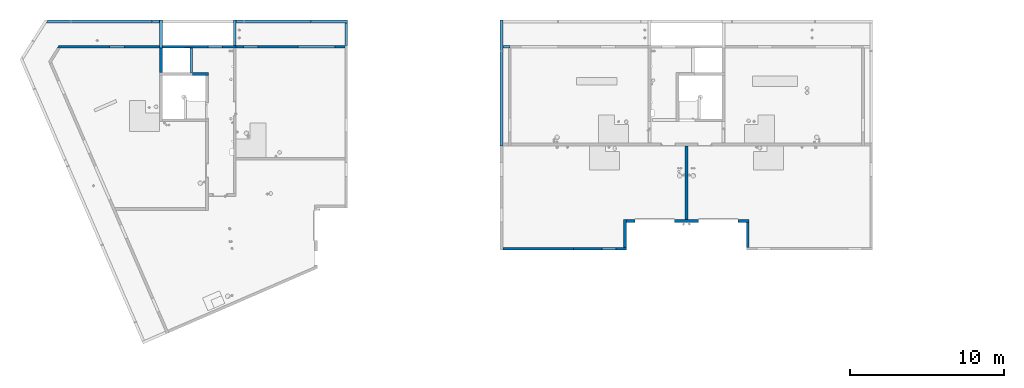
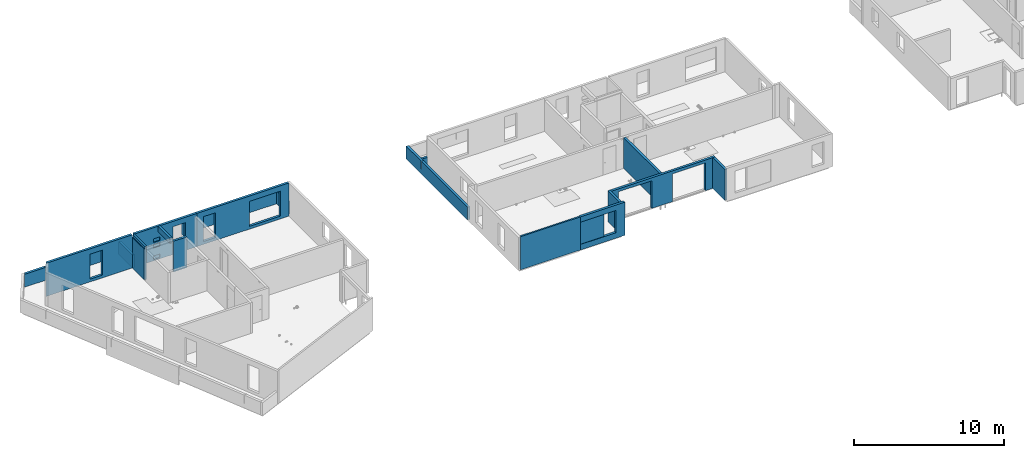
# One storey, part 7 of 28: 19 walls, 24 openings.
"""IFC2X3 building model written with IfcOpenShell, lengths in centimetres."""

from ifc_helpers import new_model, entity, si_unit, converted_unit, derived_unit, direction, frame, frame_2d, origin, place, context, subcontext, project, spatial, polyline, rectangle, outline, extrude, clip, bounded_halfspace, material, layer, layer_set, layer_usage, type_object, element, save


model = new_model("IFC2X3")

# Units and contexts
model_context = context("Model", 3, precision=0.001, world=origin(), true_north=direction((6.12303176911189e-17, 1.0)))
body_context = subcontext(model_context, "Body", "Model", "MODEL_VIEW")
ifc_project = project(units=[si_unit("LENGTHUNIT", "METRE", prefix="CENTI"), si_unit("AREAUNIT", "SQUARE_METRE"), si_unit("VOLUMEUNIT", "CUBIC_METRE"), converted_unit("PLANEANGLEUNIT", "DEGREE", entity("IfcRatioMeasure", 0.0174532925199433), si_unit("PLANEANGLEUNIT", "RADIAN"), dimensions=[0, 0, 0, 0, 0, 0, 0]), si_unit("MASSUNIT", "GRAM", prefix="KILO"), derived_unit("MASSDENSITYUNIT", [(si_unit("MASSUNIT", "GRAM", prefix="KILO"), 1), (si_unit("LENGTHUNIT", "METRE"), -3)]), si_unit("TIMEUNIT", "SECOND"), si_unit("FREQUENCYUNIT", "HERTZ"), si_unit("THERMODYNAMICTEMPERATUREUNIT", "DEGREE_CELSIUS"), derived_unit("THERMALTRANSMITTANCEUNIT", [(si_unit("MASSUNIT", "GRAM", prefix="KILO"), 1), (si_unit("THERMODYNAMICTEMPERATUREUNIT", "KELVIN"), -1), (si_unit("TIMEUNIT", "SECOND"), -3)]), derived_unit("VOLUMETRICFLOWRATEUNIT", [(si_unit("LENGTHUNIT", "METRE"), 3), (si_unit("TIMEUNIT", "SECOND"), -1)]), si_unit("ELECTRICCURRENTUNIT", "AMPERE"), si_unit("ELECTRICVOLTAGEUNIT", "VOLT"), si_unit("POWERUNIT", "WATT"), si_unit("FORCEUNIT", "NEWTON"), si_unit("ILLUMINANCEUNIT", "LUX"), si_unit("LUMINOUSFLUXUNIT", "LUMEN"), si_unit("LUMINOUSINTENSITYUNIT", "CANDELA"), derived_unit("USERDEFINED", [(si_unit("MASSUNIT", "GRAM", prefix="KILO"), -1), (si_unit("LENGTHUNIT", "METRE"), -2), (si_unit("TIMEUNIT", "SECOND"), 3), (si_unit("LUMINOUSFLUXUNIT", "LUMEN"), 1)]), derived_unit("LINEARVELOCITYUNIT", [(si_unit("LENGTHUNIT", "METRE"), 1), (si_unit("TIMEUNIT", "SECOND"), -1)]), si_unit("PRESSUREUNIT", "PASCAL"), derived_unit("USERDEFINED", [(si_unit("LENGTHUNIT", "METRE"), -2), (si_unit("MASSUNIT", "GRAM", prefix="KILO"), 1), (si_unit("TIMEUNIT", "SECOND"), -2)])], contexts=[model_context])

# Site, building, storey
site_placement = place(None, origin())
site = spatial("IfcSite", under=ifc_project, at=site_placement, Name="Default", CompositionType="ELEMENT")
building_placement = place(site_placement, origin())
building = spatial("IfcBuilding", under=site, at=building_placement, Name="CAGE 03", CompositionType="ELEMENT")
storey_placement = place(building_placement, frame((0.0, 0.0, 1420.0)))
storey = spatial("IfcBuildingStorey", under=building, at=storey_placement, Name="R+5", CompositionType="ELEMENT", Elevation=1420.0)

# Wall
ifc_material_1 = material(Name="Béton, C25/30")
ifc_layer_1 = layer(ifc_material_1, 18.0)
ifc_layer_set_1 = layer_set([ifc_layer_1], Name="Mur de base:Voile BA 18")
ifc_layer_usage_1 = layer_usage(ifc_layer_set_1, "AXIS2", "NEGATIVE", 9.0)
wall_type_1 = type_object("IfcWallType", Name="Mur de base:Voile BA 18", PredefinedType="STANDARD", material=ifc_layer_set_1)
wall_1_placement = place(storey_placement, frame((3663.36582014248, 5293.66066607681, 0.0), z_axis=(0.0, 0.0, 1.0), x_axis=(0.0, -1.0, 0.0)))
element("IfcWallStandardCase", 1, at=wall_1_placement, inside=storey, type_object=wall_type_1, material=ifc_layer_usage_1, Name="Mur de base:Voile BA 18", ObjectType="Mur de base:Voile BA 18", context=body_context, shape_type="SweptSolid", body=[
    extrude(rectangle(XDim=183.0, YDim=18.0000000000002, at=frame_2d((91.5, 5.95079541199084e-14), x_axis=(-1.0, 0.0))), origin(), (0.0, 0.0, 1.0), 105.0),
])

# Wall, openings
ifc_layer_usage_2 = layer_usage(ifc_layer_set_1, "AXIS2", "NEGATIVE", 9.0)
wall_2_placement = place(storey_placement, frame((3663.36582014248, 5119.66066607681, 0.0)))
wall_2 = element("IfcWallStandardCase", 2, at=wall_2_placement, inside=storey, type_object=wall_type_1, material=ifc_layer_usage_2, Name="Mur de base:Voile BA 18", ObjectType="Mur de base:Voile BA 18", context=body_context, shape_type="SweptSolid", body=[
    extrude(rectangle(XDim=479.999999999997, YDim=18.0000000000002, at=frame_2d((248.999999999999, -1.90070181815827e-13), x_axis=(-1.0, 0.0))), origin(), (0.0, 0.0, 1.0), 270.0),
])
opening_1_placement = place(wall_2_placement, origin())
element("IfcOpeningElement", 3, at=opening_1_placement, cuts=wall_2, Name="Mur de base:Voile BA 18", ObjectType="Opening", context=body_context, shape_type="SweptSolid", body=[
    extrude(rectangle(XDim=227.0, YDim=17.9999999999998, at=frame_2d((2.16715534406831e-13, 0.0), x_axis=(0.0, 1.0))), frame((198.0, -169.0, 113.5), z_axis=(0.0, 1.0, 0.0), x_axis=(1.0, 0.0, 0.0)), (0.0, 0.0, 1.0), 160.0),
])
opening_2_placement = place(wall_2_placement, origin())
element("IfcOpeningElement", 4, at=opening_2_placement, cuts=wall_2, Name="Mur de base:Voile BA 18", ObjectType="Recess", context=body_context, shape_type="SweptSolid", body=[
    extrude(rectangle(XDim=30.0000000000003, YDim=49.9999999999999, at=frame_2d((0.0, 1.08357767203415e-13), x_axis=(0.0, 1.0))), frame((179.0, -9.0, 25.0), z_axis=(0.0, 1.0, 0.0), x_axis=(1.0, 0.0, 0.0)), (0.0, 0.0, 1.0), 4.99999999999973),
])
opening_3_placement = place(wall_2_placement, origin())
element("IfcOpeningElement", 5, at=opening_3_placement, cuts=wall_2, Name="Mur de base:Voile BA 18", ObjectType="Recess", context=body_context, shape_type="SweptSolid", body=[
    extrude(rectangle(XDim=30.0000000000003, YDim=49.9999999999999, at=frame_2d((0.0, 1.08357767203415e-13), x_axis=(0.0, 1.0))), frame((179.0, -9.0, 120.0), z_axis=(0.0, 1.0, 0.0), x_axis=(1.0, 0.0, 0.0)), (0.0, 0.0, 1.0), 4.99999999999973),
])
opening_4_placement = place(wall_2_placement, origin())
element("IfcOpeningElement", 6, at=opening_4_placement, cuts=wall_2, Name="Mur de base:Voile BA 18", ObjectType="Recess", context=body_context, shape_type="SweptSolid", body=[
    extrude(rectangle(XDim=30.0000000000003, YDim=49.9999999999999, at=frame_2d((0.0, 1.08357767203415e-13), x_axis=(0.0, 1.0))), frame((179.0, -9.0, 165.0), z_axis=(0.0, 1.0, 0.0), x_axis=(1.0, 0.0, 0.0)), (0.0, 0.0, 1.0), 4.99999999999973),
])
opening_5_placement = place(wall_2_placement, frame((-3663.36582014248, -5119.66066607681, 0.0)))
element("IfcOpeningElement", 7, at=opening_5_placement, cuts=wall_2, Name="Mur de base:Voile BA 18", ObjectType="Opening", context=body_context, shape_type="SweptSolid", body=[
    extrude(rectangle(XDim=181.0, YDim=95.0000000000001, at=frame_2d((0.0, -4.33431068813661e-13), x_axis=(1.0, 0.0))), frame((4016.86582014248, 4958.26066607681, 135.5), z_axis=(0.0, 1.0, 0.0), x_axis=(0.0, 0.0, 1.0)), (0.0, 0.0, 1.0), 304.8),
])

# Walls
ifc_layer_usage_3 = layer_usage(ifc_layer_set_1, "AXIS2", "POSITIVE", -9.0)
wall_3_placement = place(storey_placement, frame((4143.36582014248, 5293.66066607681, 0.0), z_axis=(0.0, 0.0, 1.0), x_axis=(0.0, -1.0, 0.0)))
element("IfcWallStandardCase", 8, at=wall_3_placement, inside=storey, type_object=wall_type_1, material=ifc_layer_usage_3, Name="Mur de base:Voile BA 18", ObjectType="Mur de base:Voile BA 18", context=body_context, shape_type="SweptSolid", body=[
    extrude(rectangle(XDim=165.000000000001, YDim=17.9999999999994, at=frame_2d((82.5000000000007, -9.76996261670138e-15), x_axis=(-1.0, 0.0))), origin(), (0.0, 0.0, 1.0), 105.0),
])
ifc_layer_usage_4 = layer_usage(ifc_layer_set_1, "AXIS2", "POSITIVE", -9.0)
wall_4_placement = place(storey_placement, frame((5879.36582014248, 5293.6606660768, 0.0), z_axis=(0.0, 0.0, 1.0), x_axis=(0.0, -1.0, 0.0)))
element("IfcWallStandardCase", 9, at=wall_4_placement, inside=storey, type_object=wall_type_1, material=ifc_layer_usage_4, Name="Mur de base:Voile BA 18", ObjectType="Mur de base:Voile BA 18", context=body_context, shape_type="Clipping", body=[
    clip(extrude(rectangle(XDim=819.000000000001, YDim=17.9999999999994, at=frame_2d((409.5, 1.77635683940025e-13), x_axis=(-1.0, 0.0))), origin(), (0.0, 0.0, 1.0), 105.0), bounded_halfspace(frame((200.0, 9.0, 40.0), z_axis=(0.0, 0.0, 1.0), x_axis=(0.0, -1.0, 0.0)), False, frame((200.0, 9.0, 40.0), z_axis=(0.0, 0.0, 1.0), x_axis=(0.0, -1.0, 0.0)), polyline([(0.0, 0.0), (18.0, 0.0), (18.0, 2.0), (0.0, 2.0), (0.0, 0.0)]))),
])
ifc_layer_usage_5 = layer_usage(ifc_layer_set_1, "AXIS2", "POSITIVE", -9.0)
wall_5_placement = place(storey_placement, frame((6682.36582014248, 3814.6606660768, 0.0), z_axis=(0.0, 0.0, 1.0), x_axis=(0.0, 1.0, 0.0)))
element("IfcWallStandardCase", 10, at=wall_5_placement, inside=storey, type_object=wall_type_1, material=ifc_layer_usage_5, Name="Mur de base:Voile BA 18", ObjectType="Mur de base:Voile BA 18", context=body_context, shape_type="SweptSolid", body=[
    extrude(rectangle(XDim=179.999999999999, YDim=17.9999999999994, at=frame_2d((89.9999999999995, -1.4299672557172e-13), x_axis=(-1.0, 0.0))), origin(), (0.0, 0.0, 1.0), 250.0),
])

# Wall, openings
ifc_layer_usage_6 = layer_usage(ifc_layer_set_1, "AXIS2", "POSITIVE", -9.0)
wall_6_placement = place(storey_placement, frame((6691.36582014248, 3985.6606660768, 0.0)))
wall_6 = element("IfcWallStandardCase", 11, at=wall_6_placement, inside=storey, type_object=wall_type_1, material=ifc_layer_usage_6, Name="Mur de base:Voile BA 18", ObjectType="Mur de base:Voile BA 18", context=body_context, shape_type="SweptSolid", body=[
    extrude(rectangle(XDim=797.999999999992, YDim=17.9999999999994, at=frame_2d((398.999999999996, -5.06261699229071e-14), x_axis=(-1.0, 0.0))), origin(), (0.0, 0.0, 1.0), 250.0),
])
opening_6_placement = place(wall_6_placement, frame((-6691.36582014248, -3985.6606660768, 0.0)))
element("IfcOpeningElement", 12, at=opening_6_placement, cuts=wall_6, Name="Mur de base:Voile BA 18", ObjectType="Opening", context=body_context, shape_type="SweptSolid", body=[
    extrude(rectangle(XDim=226.0, YDim=255.0, at=frame_2d((4.33431068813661e-13, -1.13686837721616e-13), x_axis=(0.0, 1.0))), frame((6874.86582014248, 3824.2606660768, 113.0), z_axis=(0.0, 1.0, 0.0), x_axis=(-1.0, 0.0, 0.0)), (0.0, 0.0, 1.0), 304.8),
])
opening_7_placement = place(wall_6_placement, frame((-6691.36582014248, -3985.6606660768, 0.0)))
element("IfcOpeningElement", 13, at=opening_7_placement, cuts=wall_6, Name="Mur de base:Voile BA 18", ObjectType="Opening", context=body_context, shape_type="SweptSolid", body=[
    extrude(rectangle(XDim=226.0, YDim=255.0, at=frame_2d((4.33431068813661e-13, -1.13686837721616e-13), x_axis=(0.0, 1.0))), frame((7287.86582014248, 3824.2606660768, 113.0), z_axis=(0.0, 1.0, 0.0), x_axis=(-1.0, 0.0, 0.0)), (0.0, 0.0, 1.0), 304.8),
])

# Walls
ifc_layer_usage_7 = layer_usage(ifc_layer_set_1, "AXIS2", "POSITIVE", -9.0)
wall_7_placement = place(storey_placement, frame((7480.36582014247, 3976.6606660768, 0.0), z_axis=(0.0, 0.0, 1.0), x_axis=(0.0, -1.0, 0.0)))
element("IfcWallStandardCase", 14, at=wall_7_placement, inside=storey, type_object=wall_type_1, material=ifc_layer_usage_7, Name="Mur de base:Voile BA 18", ObjectType="Mur de base:Voile BA 18", context=body_context, shape_type="SweptSolid", body=[
    extrude(rectangle(XDim=161.999999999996, YDim=17.9999999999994, at=frame_2d((80.999999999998, -6.57252030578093e-14), x_axis=(-1.0, 0.0))), origin(), (0.0, 0.0, 1.0), 250.0),
])
ifc_layer_usage_8 = layer_usage(ifc_layer_set_1, "AXIS2", "POSITIVE", -9.0)
wall_8_placement = place(storey_placement, frame((4878.36582014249, 5284.66066607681, 0.0), z_axis=(0.0, 0.0, 1.0), x_axis=(-1.0, 0.0, 0.0)))
element("IfcWallStandardCase", 15, at=wall_8_placement, inside=storey, type_object=wall_type_1, material=ifc_layer_usage_8, Name="Mur de base:Voile BA 18", ObjectType="Mur de base:Voile BA 18", context=body_context, shape_type="Clipping", body=[
    clip(clip(extrude(rectangle(XDim=726.000000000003, YDim=17.9999999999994, at=frame_2d((363.000000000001, -2.1582735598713e-13), x_axis=(-1.0, 0.0))), origin(), (0.0, 0.0, 1.0), 105.0), bounded_halfspace(frame((236.0, 9.0, 40.0), z_axis=(0.0, 0.0, 1.0), x_axis=(0.0, -1.0, 0.0)), False, frame((236.0, 9.0, 40.0), z_axis=(0.0, 0.0, 1.0), x_axis=(0.0, -1.0, 0.0)), polyline([(0.0, 0.0), (18.0, 0.0), (18.0, 2.0), (0.0, 2.0), (0.0, 0.0)]))), bounded_halfspace(frame((674.0, 9.0, 40.0), z_axis=(0.0, 0.0, 1.0), x_axis=(0.0, -1.0, 0.0)), False, frame((674.0, 9.0, 40.0), z_axis=(0.0, 0.0, 1.0), x_axis=(0.0, -1.0, 0.0)), polyline([(0.0, 0.0), (18.0, 0.0), (18.0, 2.0), (0.0, 2.0), (0.0, 0.0)]))),
])
ifc_layer_usage_9 = layer_usage(ifc_layer_set_1, "AXIS2", "POSITIVE", -9.0)
wall_9_placement = place(storey_placement, frame((7081.36582014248, 4474.6606660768, 0.0), z_axis=(0.0, 0.0, 1.0), x_axis=(0.0, -1.0, 0.0)))
element("IfcWallStandardCase", 16, at=wall_9_placement, inside=storey, type_object=wall_type_1, material=ifc_layer_usage_9, Name="Mur de base:Voile BA 18", ObjectType="Mur de base:Voile BA 18", context=body_context, shape_type="SweptSolid", body=[
    extrude(rectangle(XDim=480.000000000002, YDim=17.9999999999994, at=frame_2d((240.000000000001, 0.0), x_axis=(-1.0, 0.0))), origin(), (0.0, 0.0, 1.0), 250.0),
])

# Wall, opening
ifc_layer_usage_10 = layer_usage(ifc_layer_set_1, "AXIS2", "POSITIVE", -9.0)
wall_10_placement = place(storey_placement, frame((3861.36582014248, 5110.66066607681, 227.0), z_axis=(0.0, 0.0, 1.0), x_axis=(0.0, -1.0, 0.0)))
wall_10 = element("IfcWallStandardCase", 17, at=wall_10_placement, inside=storey, type_object=wall_type_1, material=ifc_layer_usage_10, Name="Mur de base:Voile BA 18", ObjectType="Mur de base:Voile BA 18", context=body_context, shape_type="SweptSolid", body=[
    extrude(rectangle(XDim=160.0, YDim=18.0000000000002, at=frame_2d((80.0, -8.08242361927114e-14), x_axis=(-1.0, 0.0))), origin(), (0.0, 0.0, 1.0), 43.0000000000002),
])
opening_8_placement = place(wall_10_placement, frame((5110.66066607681, -3861.36582014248, -227.0), z_axis=(0.0, 0.0, 1.0), x_axis=(0.0, 1.0, 0.0)))
element("IfcOpeningElement", 18, at=opening_8_placement, cuts=wall_10, Name="Mur de base:Voile BA 18", ObjectType="Opening", context=body_context, shape_type="SweptSolid", body=[
    extrude(rectangle(XDim=227.0, YDim=160.0, at=frame_2d((0.0, -2.20268248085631e-13), x_axis=(0.0, 1.0))), frame((3717.96582014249, 5030.66066607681, 113.5), z_axis=(1.0, 0.0, 0.0), x_axis=(0.0, 1.0, 0.0)), (0.0, 0.0, 1.0), 304.8),
])

# Wall, openings
ifc_layer_usage_11 = layer_usage(ifc_layer_set_1, "AXIS2", "NEGATIVE", 9.0)
wall_11_placement = place(storey_placement, frame((2988.17310873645, 5119.66066607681, 0.0)))
wall_11 = element("IfcWallStandardCase", 19, at=wall_11_placement, inside=storey, type_object=wall_type_1, material=ifc_layer_usage_11, Name="Mur de base:Voile BA 18", ObjectType="Mur de base:Voile BA 18", context=body_context, shape_type="SweptSolid", body=[
    extrude(outline(polyline([(666.192711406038, -9.0), (666.192711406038, 9.0), (11.3030286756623, 9.0), (0.0, -9.0), (21.2546102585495, -9.0), (666.192711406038, -9.0)])), origin(), (0.0, 0.0, 1.0), 270.0),
])
opening_9_placement = place(wall_11_placement, origin())
element("IfcOpeningElement", 20, at=opening_9_placement, cuts=wall_11, Name="Mur de base:Voile BA 18", ObjectType="Opening", context=body_context, shape_type="SweptSolid", body=[
    extrude(rectangle(XDim=227.0, YDim=17.9999999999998, at=frame_2d((2.16715534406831e-13, 0.0), x_axis=(0.0, 1.0))), frame((873.192711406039, -169.0, 113.5), z_axis=(0.0, 1.0, 0.0), x_axis=(1.0, 0.0, 0.0)), (0.0, 0.0, 1.0), 160.0),
])
opening_10_placement = place(wall_11_placement, origin())
element("IfcOpeningElement", 21, at=opening_10_placement, cuts=wall_11, Name="Mur de base:Voile BA 18", ObjectType="Recess", context=body_context, shape_type="SweptSolid", body=[
    extrude(rectangle(XDim=30.0000000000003, YDim=49.9999999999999, at=frame_2d((0.0, 1.08357767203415e-13), x_axis=(0.0, 1.0))), frame((854.192711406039, -9.0, 25.0), z_axis=(0.0, 1.0, 0.0), x_axis=(1.0, 0.0, 0.0)), (0.0, 0.0, 1.0), 4.99999999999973),
])
opening_11_placement = place(wall_11_placement, origin())
element("IfcOpeningElement", 22, at=opening_11_placement, cuts=wall_11, Name="Mur de base:Voile BA 18", ObjectType="Recess", context=body_context, shape_type="SweptSolid", body=[
    extrude(rectangle(XDim=30.0000000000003, YDim=49.9999999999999, at=frame_2d((0.0, 1.08357767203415e-13), x_axis=(0.0, 1.0))), frame((854.192711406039, -9.0, 120.0), z_axis=(0.0, 1.0, 0.0), x_axis=(1.0, 0.0, 0.0)), (0.0, 0.0, 1.0), 4.99999999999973),
])
opening_12_placement = place(wall_11_placement, origin())
element("IfcOpeningElement", 23, at=opening_12_placement, cuts=wall_11, Name="Mur de base:Voile BA 18", ObjectType="Recess", context=body_context, shape_type="SweptSolid", body=[
    extrude(rectangle(XDim=30.0000000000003, YDim=49.9999999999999, at=frame_2d((0.0, 1.08357767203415e-13), x_axis=(0.0, 1.0))), frame((854.192711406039, -9.0, 165.0), z_axis=(0.0, 1.0, 0.0), x_axis=(1.0, 0.0, 0.0)), (0.0, 0.0, 1.0), 4.99999999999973),
])
opening_13_placement = place(wall_11_placement, frame((-2988.17310873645, -5119.66066607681, 0.0)))
element("IfcOpeningElement", 24, at=opening_13_placement, cuts=wall_11, Name="Mur de base:Voile BA 18", ObjectType="Opening", context=body_context, shape_type="SweptSolid", body=[
    extrude(rectangle(XDim=203.0, YDim=95.0000000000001, at=frame_2d((1.06581410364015e-13, 0.0), x_axis=(1.0, 0.0))), frame((3377.86582014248, 4958.26066607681, 124.5), z_axis=(0.0, 1.0, 0.0), x_axis=(0.0, 0.0, 1.0)), (0.0, 0.0, 1.0), 304.8),
])

ifc_layer_usage_12 = layer_usage(ifc_layer_set_1, "AXIS2", "POSITIVE", -9.0)
wall_12_placement = place(storey_placement, frame((4860.36582014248, 5119.6606660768, 0.0), z_axis=(0.0, 0.0, 1.0), x_axis=(-1.0, 0.0, 0.0)))
wall_12 = element("IfcWallStandardCase", 25, at=wall_12_placement, inside=storey, type_object=wall_type_1, material=ifc_layer_usage_12, Name="Mur de base:Voile BA 18", ObjectType="Mur de base:Voile BA 18", context=body_context, shape_type="SweptSolid", body=[
    extrude(rectangle(XDim=717.000000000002, YDim=17.9999999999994, at=frame_2d((358.500000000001, -2.30038210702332e-13), x_axis=(-1.0, 0.0))), origin(), (0.0, 0.0, 1.0), 270.0),
])
opening_14_placement = place(wall_12_placement, origin())
element("IfcOpeningElement", 26, at=opening_14_placement, cuts=wall_12, Name="Mur de base:Voile BA 18", ObjectType="Opening", context=body_context, shape_type="SweptSolid", body=[
    extrude(rectangle(XDim=227.0, YDim=17.9999999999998, at=frame_2d((-2.16715534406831e-13, -2.20268248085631e-13), x_axis=(0.0, 1.0))), frame((999.0, 9.0, 113.5), z_axis=(0.0, 1.0, 0.0), x_axis=(-1.0, 0.0, 0.0)), (0.0, 0.0, 1.0), 160.0),
])
opening_15_placement = place(wall_12_placement, origin())
element("IfcOpeningElement", 27, at=opening_15_placement, cuts=wall_12, Name="Mur de base:Voile BA 18", ObjectType="Recess", context=body_context, shape_type="SweptSolid", body=[
    extrude(rectangle(XDim=30.0000000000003, YDim=49.9999999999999, at=frame_2d((1.08357767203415e-13, 0.0), x_axis=(1.0, 0.0))), frame((1018.0, 4.0, 25.0), z_axis=(0.0, 1.0, 0.0), x_axis=(0.0, 0.0, -1.0)), (0.0, 0.0, 1.0), 4.99999999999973),
])
opening_16_placement = place(wall_12_placement, origin())
element("IfcOpeningElement", 28, at=opening_16_placement, cuts=wall_12, Name="Mur de base:Voile BA 18", ObjectType="Recess", context=body_context, shape_type="SweptSolid", body=[
    extrude(rectangle(XDim=30.0000000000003, YDim=49.9999999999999, at=frame_2d((1.08357767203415e-13, 0.0), x_axis=(1.0, 0.0))), frame((1018.0, 4.0, 120.0), z_axis=(0.0, 1.0, 0.0), x_axis=(0.0, 0.0, -1.0)), (0.0, 0.0, 1.0), 4.99999999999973),
])
opening_17_placement = place(wall_12_placement, origin())
element("IfcOpeningElement", 29, at=opening_17_placement, cuts=wall_12, Name="Mur de base:Voile BA 18", ObjectType="Recess", context=body_context, shape_type="SweptSolid", body=[
    extrude(rectangle(XDim=30.0000000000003, YDim=49.9999999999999, at=frame_2d((1.08357767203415e-13, 0.0), x_axis=(1.0, 0.0))), frame((1018.0, 4.0, 165.0), z_axis=(0.0, 1.0, 0.0), x_axis=(0.0, 0.0, -1.0)), (0.0, 0.0, 1.0), 4.99999999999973),
])
opening_18_placement = place(wall_12_placement, frame((4860.36582014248, 5119.6606660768, 0.0), z_axis=(0.0, 0.0, 1.0), x_axis=(-1.0, 0.0, 0.0)))
element("IfcOpeningElement", 30, at=opening_18_placement, cuts=wall_12, Name="Mur de base:Voile BA 18", ObjectType="Opening", context=body_context, shape_type="SweptSolid", body=[
    extrude(rectangle(XDim=203.0, YDim=95.0000000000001, at=frame_2d((-4.33431068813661e-13, -1.06581410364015e-13), x_axis=(0.0, 1.0))), frame((4248.86582014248, 5263.06066607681, 124.5), z_axis=(0.0, -1.0, 0.0), x_axis=(1.0, 0.0, 0.0)), (0.0, 0.0, 1.0), 304.8),
])
opening_19_placement = place(wall_12_placement, frame((4860.36582014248, 5119.6606660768, 0.0), z_axis=(0.0, 0.0, 1.0), x_axis=(-1.0, 0.0, 0.0)))
element("IfcOpeningElement", 31, at=opening_19_placement, cuts=wall_12, Name="Mur de base:Voile BA 18", ObjectType="Opening", context=body_context, shape_type="SweptSolid", body=[
    extrude(rectangle(XDim=203.0, YDim=240.0, at=frame_2d((4.33431068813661e-13, -1.06581410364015e-13), x_axis=(0.0, 1.0))), frame((4676.36582014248, 5263.0606660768, 124.5), z_axis=(0.0, -1.0, 0.0), x_axis=(1.0, 0.0, 0.0)), (0.0, 0.0, 1.0), 304.8),
])

# Walls
ifc_layer_usage_13 = layer_usage(ifc_layer_set_1, "AXIS2", "POSITIVE", -9.0)
wall_13_placement = place(storey_placement, frame((4869.36582014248, 5128.6606660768, 0.0), z_axis=(0.0, 0.0, 1.0), x_axis=(0.0, 1.0, 0.0)))
element("IfcWallStandardCase", 32, at=wall_13_placement, inside=storey, type_object=wall_type_1, material=ifc_layer_usage_13, Name="Mur de base:Voile BA 18", ObjectType="Mur de base:Voile BA 18", context=body_context, shape_type="SweptSolid", body=[
    extrude(rectangle(XDim=147.000000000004, YDim=17.9999999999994, at=frame_2d((73.5000000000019, -2.8688162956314e-13), x_axis=(-1.0, 0.0))), origin(), (0.0, 0.0, 1.0), 105.0),
])
ifc_layer_usage_14 = layer_usage(ifc_layer_set_1, "AXIS2", "POSITIVE", -9.0)
wall_14_placement = place(storey_placement, frame((5932.36582014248, 5119.6606660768, 0.0), z_axis=(0.0, 0.0, 1.0), x_axis=(-1.0, 0.0, 0.0)))
element("IfcWallStandardCase", 33, at=wall_14_placement, inside=storey, type_object=wall_type_1, material=ifc_layer_usage_14, Name="Mur de base:Voile BA 18", ObjectType="Mur de base:Voile BA 18", context=body_context, shape_type="SweptSolid", body=[
    extrude(rectangle(XDim=44.0000000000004, YDim=17.9999999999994, at=frame_2d((22.0000000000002, 7.105427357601e-14), x_axis=(-1.0, 0.0))), origin(), (0.0, 0.0, 1.0), 105.0),
])
ifc_layer_usage_15 = layer_usage(ifc_layer_set_1, "AXIS2", "POSITIVE", -9.0)
wall_15_placement = place(storey_placement, frame((3654.36582014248, 5284.66066607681, 0.0), z_axis=(0.0, 0.0, 1.0), x_axis=(-1.0, 0.0, 0.0)))
element("IfcWallStandardCase", 34, at=wall_15_placement, inside=storey, type_object=wall_type_1, material=ifc_layer_usage_15, Name="Mur de base:Voile BA 18", ObjectType="Mur de base:Voile BA 18", context=body_context, shape_type="Clipping", body=[
    clip(clip(extrude(outline(polyline([(724.857903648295, -9.0), (736.160932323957, 9.0), (0.0, 9.0), (0.0, -9.0), (724.857903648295, -9.0)])), origin(), (0.0, 0.0, 1.0), 105.0), bounded_halfspace(frame((575.0, 9.0, 40.0), z_axis=(0.0, 0.0, 1.0), x_axis=(0.0, -1.0, 0.0)), False, frame((575.0, 9.0, 40.0), z_axis=(0.0, 0.0, 1.0), x_axis=(0.0, -1.0, 0.0)), polyline([(0.0, 0.0), (18.0, 0.0), (18.0, 2.0), (0.0, 2.0), (0.0, 0.0)]))), bounded_halfspace(frame((46.0, 9.0, 40.0), z_axis=(0.0, 0.0, 1.0), x_axis=(0.0, -1.0, 0.0)), False, frame((46.0, 9.0, 40.0), z_axis=(0.0, 0.0, 1.0), x_axis=(0.0, -1.0, 0.0)), polyline([(0.0, 0.0), (18.0, 0.0), (18.0, 2.0), (0.0, 2.0), (0.0, 0.0)]))),
])

# Wall, openings
ifc_layer_usage_16 = layer_usage(ifc_layer_set_1, "AXIS2", "POSITIVE", -9.0)
wall_16_placement = place(storey_placement, frame((6347.36582014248, 3805.6606660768, 0.0)))
wall_16 = element("IfcWallStandardCase", 35, at=wall_16_placement, inside=storey, type_object=wall_type_1, material=ifc_layer_usage_16, Name="Mur de base:Voile BA 18", ObjectType="Mur de base:Voile BA 18", context=body_context, shape_type="SweptSolid", body=[
    extrude(rectangle(XDim=344.0, YDim=18.0000000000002, at=frame_2d((172.0, -1.04805053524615e-13), x_axis=(-1.0, 0.0))), origin(), (0.0, 0.0, 1.0), 270.0),
])
opening_20_placement = place(wall_16_placement, origin())
element("IfcOpeningElement", 36, at=opening_20_placement, cuts=wall_16, Name="Mur de base:Voile BA 18", ObjectType="Recess", context=body_context, shape_type="SweptSolid", body=[
    extrude(rectangle(XDim=181.0, YDim=184.0, at=frame_2d((-1.06581410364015e-13, 0.0), x_axis=(1.0, 0.0))), frame((92.0, -9.0, 135.5), z_axis=(0.0, 1.0, 0.0), x_axis=(0.0, 0.0, -1.0)), (0.0, 0.0, 1.0), 1.99999999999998),
])
opening_21_placement = place(wall_16_placement, origin())
element("IfcOpeningElement", 37, at=opening_21_placement, cuts=wall_16, Name="Mur de base:Voile BA 18", ObjectType="Recess", context=body_context, shape_type="SweptSolid", body=[
    extrude(rectangle(XDim=181.0, YDim=184.0, at=frame_2d((-1.06581410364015e-13, 0.0), x_axis=(1.0, 0.0))), frame((1376.0, -9.0, 135.5), z_axis=(0.0, 1.0, 0.0), x_axis=(0.0, 0.0, -1.0)), (0.0, 0.0, 1.0), 1.99999999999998),
])
opening_22_placement = place(wall_16_placement, frame((-6347.36582014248, -3805.6606660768, 0.0)))
element("IfcOpeningElement", 38, at=opening_22_placement, cuts=wall_16, Name="Mur de base:Voile BA 18", ObjectType="Opening", context=body_context, shape_type="SweptSolid", body=[
    extrude(rectangle(XDim=181.0, YDim=91.0000000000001, at=frame_2d((0.0, -2.1316282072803e-13), x_axis=(0.0, 1.0))), frame((6576.86582014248, 3644.2606660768, 135.5), z_axis=(0.0, 1.0, 0.0), x_axis=(-1.0, 0.0, 0.0)), (0.0, 0.0, 1.0), 304.8),
])

# Wall
ifc_material_2 = material(Name="Béton, panneaux préfa 30/37")
ifc_layer_2 = layer(ifc_material_2, 5.5)
ifc_layer_3 = layer(ifc_material_1, 7.0)
ifc_layer_4 = layer(ifc_material_2, 5.5)
ifc_layer_set_2 = layer_set([ifc_layer_2, ifc_layer_3, ifc_layer_4], Name="Mur de base:premur 18")
ifc_layer_usage_17 = layer_usage(ifc_layer_set_2, "AXIS2", "POSITIVE", -9.0)
wall_type_2 = type_object("IfcWallType", Name="Mur de base:premur 18", PredefinedType="NOTDEFINED")
wall_17_placement = place(storey_placement, frame((3663.36582014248, 5110.66066607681, 0.0), z_axis=(0.0, 0.0, 1.0), x_axis=(0.0, -1.0, 0.0)))
element("IfcWallStandardCase", 39, at=wall_17_placement, inside=storey, type_object=wall_type_2, material=ifc_layer_usage_17, Name="Mur de base:premur 18", ObjectType="Mur de base:premur 18", context=body_context, shape_type="Clipping", body=[
    clip(clip(extrude(rectangle(XDim=160.0, YDim=18.0000000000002, at=frame_2d((80.0, -7.105427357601e-14), x_axis=(-1.0, 0.0))), origin(), (0.0, 0.0, 1.0), 270.0), bounded_halfspace(frame((160.0, -3.50000000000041, 250.0), z_axis=(0.0, 0.0, -1.0), x_axis=(1.0, 0.0, 0.0)), True, frame((160.0, -3.50000000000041, 250.0), z_axis=(0.0, 0.0, -1.0), x_axis=(1.0, 0.0, 0.0)), polyline([(0.0, 0.0), (0.0, 5.49999999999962), (-160.0, 5.49999999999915), (-160.0, 0.0), (0.0, 0.0)]))), bounded_halfspace(frame((0.0, -3.5000000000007, 250.0), z_axis=(0.0, 1.0, 0.0), x_axis=(0.0, 0.0, 1.0)), True, frame((0.0, -3.5000000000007, 250.0), z_axis=(0.0, 1.0, 0.0), x_axis=(0.0, 0.0, 1.0)), polyline([(0.0, 0.0), (20.0, 0.0), (20.0, 160.0), (0.0, 160.0), (0.0, 0.0)]))),
])

# Wall, opening
ifc_layer_usage_18 = layer_usage(ifc_layer_set_2, "AXIS2", "POSITIVE", -9.0)
wall_18_placement = place(storey_placement, frame((5888.36582014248, 3805.66066607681, 0.0)))
wall_18 = element("IfcWallStandardCase", 40, at=wall_18_placement, inside=storey, type_object=wall_type_2, material=ifc_layer_usage_18, Name="Mur de base:premur 18", ObjectType="Mur de base:premur 18", context=body_context, shape_type="Clipping", body=[
    clip(clip(extrude(rectangle(XDim=459.000000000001, YDim=18.0000000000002, at=frame_2d((229.500000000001, 7.72715225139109e-14), x_axis=(-1.0, 0.0))), origin(), (0.0, 0.0, 1.0), 270.0), bounded_halfspace(frame((0.0, 3.50000000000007, 250.0), z_axis=(0.0, 0.0, -1.0), x_axis=(1.0, 0.0, 0.0)), True, frame((0.0, 3.50000000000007, 250.0), z_axis=(0.0, 0.0, -1.0), x_axis=(1.0, 0.0, 0.0)), polyline([(0.0, 0.0), (0.0, -5.50000000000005), (459.0, -5.49999999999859), (459.0, 0.0), (0.0, 0.0)]))), bounded_halfspace(frame((459.0, 3.50000000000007, 250.0), z_axis=(0.0, -1.0, 0.0), x_axis=(0.0, 0.0, 1.0)), True, frame((459.0, 3.50000000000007, 250.0), z_axis=(0.0, -1.0, 0.0), x_axis=(0.0, 0.0, 1.0)), polyline([(0.0, 0.0), (20.0, 0.0), (20.0, 459.0), (0.0, 459.0), (0.0, 0.0)]))),
])
opening_23_placement = place(wall_18_placement, origin())
element("IfcOpeningElement", 41, at=opening_23_placement, cuts=wall_18, Name="Mur de base:premur 18", ObjectType="Recess", context=body_context, shape_type="SweptSolid", body=[
    extrude(rectangle(XDim=181.0, YDim=184.0, at=frame_2d((-1.06581410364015e-13, 0.0), x_axis=(1.0, 0.0))), frame((551.0, -9.0, 135.5), z_axis=(0.0, 1.0, 0.0), x_axis=(0.0, 0.0, -1.0)), (0.0, 0.0, 1.0), 1.99999999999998),
])

ifc_layer_usage_19 = layer_usage(ifc_layer_set_2, "AXIS2", "NEGATIVE", 9.0)
wall_19_placement = place(storey_placement, frame((3870.36582014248, 4941.66066607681, 0.0)))
wall_19 = element("IfcWallStandardCase", 42, at=wall_19_placement, inside=storey, type_object=wall_type_2, material=ifc_layer_usage_19, Name="Mur de base:premur 18", ObjectType="Mur de base:premur 18", context=body_context, shape_type="SweptSolid", body=[
    extrude(rectangle(XDim=101.999999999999, YDim=17.9999999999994, at=frame_2d((50.9999999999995, -5.41788836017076e-14), x_axis=(-1.0, 0.0))), origin(), (0.0, 0.0, 1.0), 250.0),
])
opening_24_placement = place(wall_19_placement, origin())
element("IfcOpeningElement", 43, at=opening_24_placement, cuts=wall_19, Name="Mur de base:premur 18", ObjectType="Opening", context=body_context, shape_type="SweptSolid", body=[
    extrude(rectangle(XDim=227.0, YDim=17.9999999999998, at=frame_2d((2.16715534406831e-13, 0.0), x_axis=(0.0, 1.0))), frame((-9.0, 9.0, 113.5), z_axis=(0.0, 1.0, 0.0), x_axis=(1.0, 0.0, 0.0)), (0.0, 0.0, 1.0), 160.0),
])

save(model, "model.ifc")
